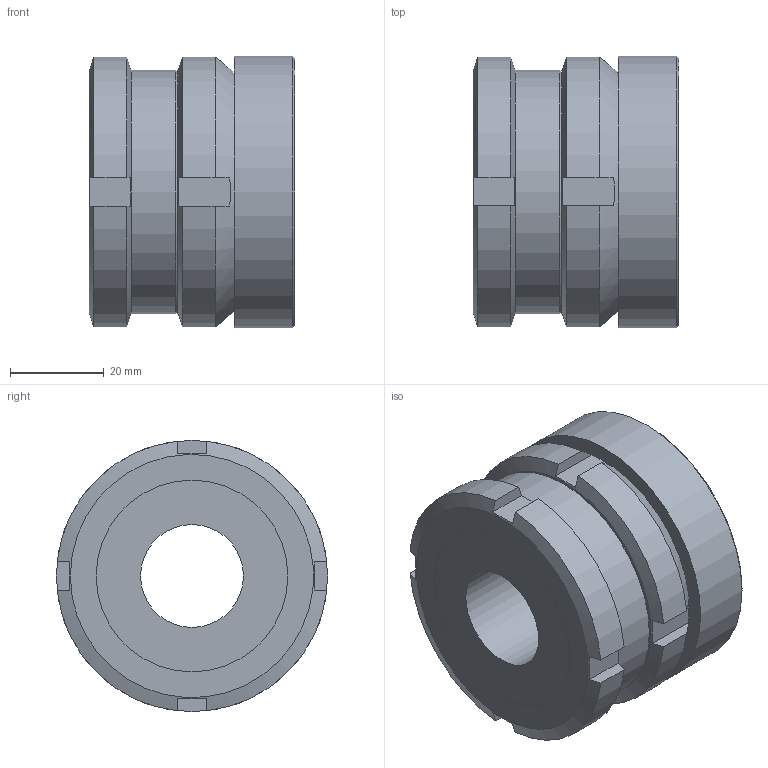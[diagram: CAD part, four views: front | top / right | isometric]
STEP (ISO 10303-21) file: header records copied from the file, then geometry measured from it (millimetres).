
FILE_DESCRIPTION( ( 'STEP AP203' ), '1' );
FILE_NAME( 'C:/Temp/Ganter_Step_05_03_2020/data/3_2/gn350_2/gn_350_2_ni/Stainless Steel-Levelling set GN 350.2-58-22-44-NI (0-0).stp', '2020-03-13T05:28:12', ( 'License CC BY-ND 4.0' ), ( 'CADENAS' ), ' ', 'PARTsolutions', ' ' );
FILE_SCHEMA( ( 'CONFIG_CONTROL_DESIGN' ) );
Length unit declared in the file: millimetre
Products named in the file (4): Stainless Steel-Levelling set GN 350.2-58-22-44-NI (0-0); _Levelling set GN 350.2-58-22-44-ST-G; _Levelling set GN 350.2-58-22-44-ST-K; _Levelling set GN 350.2-58-22-44-ST-P(0)
Assembly tree (3 placements, depth 2):
  Stainless Steel-Levelling set GN 350.2-58-22-44-NI (0-0)
    _Levelling set GN 350.2-58-22-44-ST-G
    _Levelling set GN 350.2-58-22-44-ST-K
    _Levelling set GN 350.2-58-22-44-ST-P(0)
Bounding box: 44 x 58 x 58 mm (x, y, z)
Volume: 89036.8 mm3; surface area: 28072.8 mm2
Topology: 3 solids, 3 shells, 62 faces, 149 edges, 99 vertices
Faces by surface type: plane 36, cylinder 19, cone 5, sphere 2
Full cylindrical faces by diameter (mm): 22 x1, 31.5 x1, 33.485 x1, 34.5 x1, 38.376 x1, 39 x1, 40 x1, 41 x2, 52 x1, 58 x1
Entity records: 1925 total; most frequent: CARTESIAN_POINT 462, DIRECTION 276, ORIENTED_EDGE 248, EDGE_CURVE 124, AXIS2_PLACEMENT_3D 122, EDGE_LOOP 92, VERTEX_POINT 92, FACE_OUTER_BOUND 75
